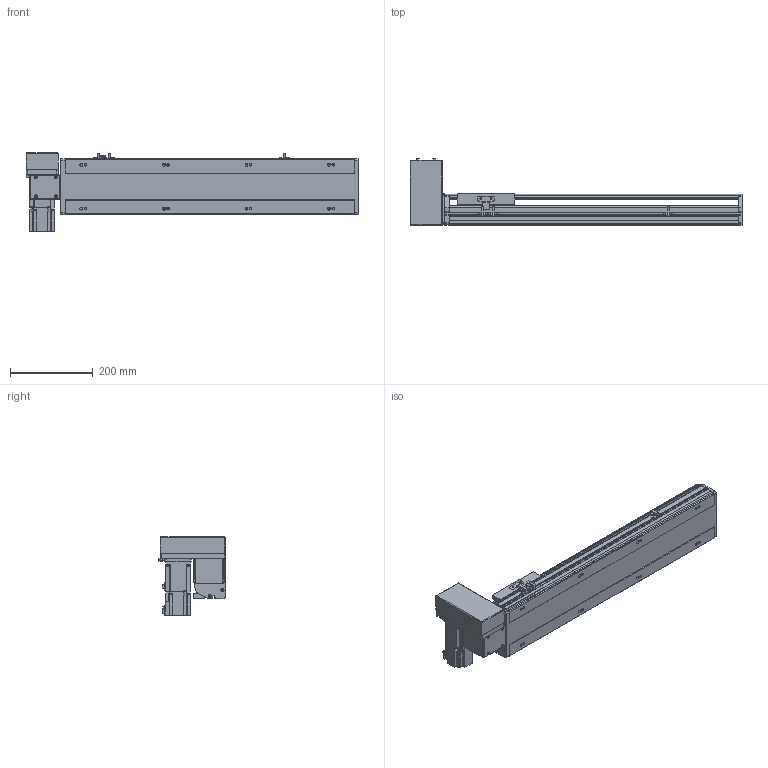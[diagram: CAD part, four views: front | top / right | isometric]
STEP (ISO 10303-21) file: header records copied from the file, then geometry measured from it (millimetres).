
FILE_DESCRIPTION( ( 'STEP AP214' ), '1' );
FILE_NAME( 'x:/temp/worker_4/temp/exporttempdir_2248_95_TDQXR/format_0/PBS140-P40-S450-RU-T40-C1-N(0).stp', '2022-06-07T05:53:02', ( 'License CC BY-ND 4.0' ), ( 'CADENAS' ), ' ', 'PARTsolutions', ' ' );
FILE_SCHEMA( ( 'AUTOMOTIVE_DESIGN { 1 0 10303 214 1 1 1 1 }' ) );
Length unit declared in the file: millimetre
Products named in the file (7): PBS140-P40-S450-RU-T40-C1-N(0); _PBS140-S450()_body; _PBS140T-RU_motors; _T40-p1; _PBS140_sliser; _PBS140_plant; _PBS140_sensor
Assembly tree (8 placements, depth 2):
  PBS140-P40-S450-RU-T40-C1-N(0)
    _PBS140-S450()_body
    _PBS140T-RU_motors
    _T40-p1
    _PBS140_sliser
    _PBS140_plant
    _PBS140_sensor  x3
Bounding box: 804 x 162.5 x 189.7 mm (x, y, z)
Volume: 4208963.6 mm3; surface area: 757626.8 mm2
Topology: 8 solids, 8 shells, 1011 faces, 2676 edges, 1749 vertices
Faces by surface type: plane 668, cylinder 299, cone 34, sphere 8, torus 2
Full cylindrical faces by diameter (mm): 3.242 x4, 4 x2, 4.134 x4, 4.4 x8, 4.5 x2, 4.8 x4, 4.917 x16, 5.5 x7, 6 x2, 7 x10, 7.5 x8, 8 x12, 8.5 x4, 10.5 x8, 14 x1, 30 x2, 50 x2
Entity records: 36721 total; most frequent: CARTESIAN_POINT 5579, DIRECTION 4917, ORIENTED_EDGE 4672, EDGE_CURVE 2336, AXIS2_PLACEMENT_3D 1687, VERTEX_POINT 1605, LINE 1543, VECTOR 1543
